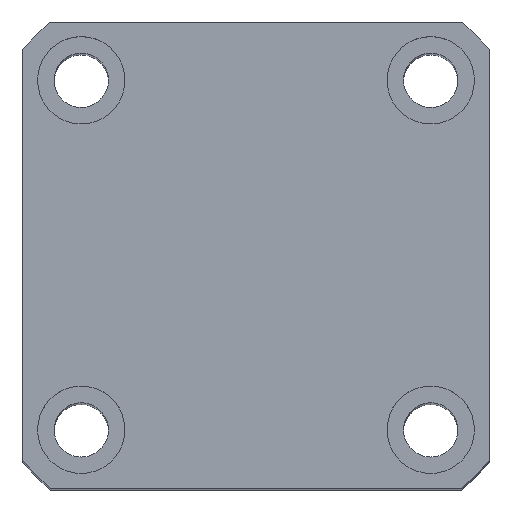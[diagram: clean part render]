
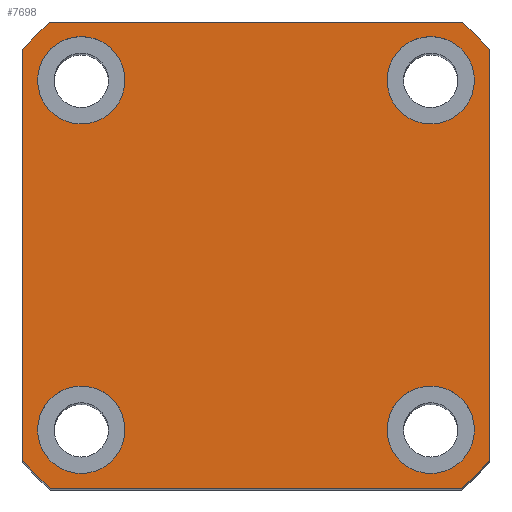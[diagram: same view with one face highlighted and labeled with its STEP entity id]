
A CAD part, top view. The second image highlights one B-rep face of the part: STEP entity #7698.
In plain terms, the highlighted planar face has unit normal (0, 0, 1) as drawn and (1, 0, 0) by its records, which use the part's own axes.
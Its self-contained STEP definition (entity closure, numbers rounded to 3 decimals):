
#68 = AXIS2_PLACEMENT_3D ( 'NONE', #4251, #512, #4882 ) ;
#321 = CIRCLE ( 'NONE', #5984, 4.5 ) ;
#329 = ORIENTED_EDGE ( 'NONE', *, *, #1402, .F. ) ;
#356 = CIRCLE ( 'NONE', #68, 4.5 ) ;
#409 = CARTESIAN_POINT ( 'NONE',  ( 115., -18., -18. ) ) ;
#424 = AXIS2_PLACEMENT_3D ( 'NONE', #5778, #515, #1615 ) ;
#474 = CIRCLE ( 'NONE', #7765, 4.5 ) ;
#512 = DIRECTION ( 'NONE',  ( 1., 0., 0. ) ) ;
#515 = DIRECTION ( 'NONE',  ( 1., 0., 0. ) ) ;
#533 = CARTESIAN_POINT ( 'NONE',  ( 115., 18., 22.5 ) ) ;
#724 = ORIENTED_EDGE ( 'NONE', *, *, #5902, .T. ) ;
#736 = ORIENTED_EDGE ( 'NONE', *, *, #5100, .F. ) ;
#940 = ORIENTED_EDGE ( 'NONE', *, *, #1017, .T. ) ;
#1017 = EDGE_CURVE ( 'NONE', #2473, #1281, #7868, .T. ) ;
#1120 = EDGE_CURVE ( 'NONE', #3943, #2269, #4187, .T. ) ;
#1135 = CARTESIAN_POINT ( 'NONE',  ( 115., -24., 24. ) ) ;
#1152 = CARTESIAN_POINT ( 'NONE',  ( 115., -24., -21.166 ) ) ;
#1250 = ORIENTED_EDGE ( 'NONE', *, *, #1120, .T. ) ;
#1273 = EDGE_CURVE ( 'NONE', #3800, #1586, #3988, .T. ) ;
#1281 = VERTEX_POINT ( 'NONE', #6408 ) ;
#1294 = VERTEX_POINT ( 'NONE', #7442 ) ;
#1402 = EDGE_CURVE ( 'NONE', #4436, #6930, #474, .T. ) ;
#1424 = ORIENTED_EDGE ( 'NONE', *, *, #1898, .T. ) ;
#1476 = ORIENTED_EDGE ( 'NONE', *, *, #5421, .F. ) ;
#1513 = CARTESIAN_POINT ( 'NONE',  ( 115., 24., 24. ) ) ;
#1586 = VERTEX_POINT ( 'NONE', #2344 ) ;
#1615 = DIRECTION ( 'NONE',  ( 0., 0., -1. ) ) ;
#1650 = CIRCLE ( 'NONE', #4276, 4.5 ) ;
#1870 = VERTEX_POINT ( 'NONE', #2248 ) ;
#1885 = CARTESIAN_POINT ( 'NONE',  ( 115., -21.166, -24. ) ) ;
#1898 = EDGE_CURVE ( 'NONE', #1586, #3943, #5600, .T. ) ;
#1910 = CARTESIAN_POINT ( 'NONE',  ( 115., -18., 18. ) ) ;
#1920 = CIRCLE ( 'NONE', #3719, 32. ) ;
#2002 = EDGE_CURVE ( 'NONE', #4073, #7285, #1920, .T. ) ;
#2040 = CIRCLE ( 'NONE', #2443, 4.5 ) ;
#2065 = CARTESIAN_POINT ( 'NONE',  ( 115., 0., 0. ) ) ;
#2248 = CARTESIAN_POINT ( 'NONE',  ( 115., -18., 22.5 ) ) ;
#2269 = VERTEX_POINT ( 'NONE', #1885 ) ;
#2306 = FACE_BOUND ( 'NONE', #6387, .T. ) ;
#2344 = CARTESIAN_POINT ( 'NONE',  ( 115., -24., 21.166 ) ) ;
#2438 = CARTESIAN_POINT ( 'NONE',  ( 115., 24., 24. ) ) ;
#2443 = AXIS2_PLACEMENT_3D ( 'NONE', #1910, #6230, #2509 ) ;
#2473 = VERTEX_POINT ( 'NONE', #3285 ) ;
#2509 = DIRECTION ( 'NONE',  ( 0., 0., -1. ) ) ;
#2564 = LINE ( 'NONE', #7410, #7499 ) ;
#2589 = ORIENTED_EDGE ( 'NONE', *, *, #5230, .F. ) ;
#2705 = EDGE_CURVE ( 'NONE', #1870, #1294, #3079, .T. ) ;
#2754 = DIRECTION ( 'NONE',  ( 0., -1., 0. ) ) ;
#2827 = CARTESIAN_POINT ( 'NONE',  ( 115., 24., -21.166 ) ) ;
#3030 = DIRECTION ( 'NONE',  ( 1., 0., 0. ) ) ;
#3058 = ORIENTED_EDGE ( 'NONE', *, *, #7634, .F. ) ;
#3075 = DIRECTION ( 'NONE',  ( 0., 0., 1. ) ) ;
#3079 = CIRCLE ( 'NONE', #5255, 4.5 ) ;
#3082 = ORIENTED_EDGE ( 'NONE', *, *, #4182, .F. ) ;
#3152 = CARTESIAN_POINT ( 'NONE',  ( 115., 18., -18. ) ) ;
#3167 = ORIENTED_EDGE ( 'NONE', *, *, #2002, .T. ) ;
#3282 = CARTESIAN_POINT ( 'NONE',  ( 115., -18., -18. ) ) ;
#3285 = CARTESIAN_POINT ( 'NONE',  ( 115., 24., 21.166 ) ) ;
#3305 = DIRECTION ( 'NONE',  ( 0., 0., -1. ) ) ;
#3368 = FACE_OUTER_BOUND ( 'NONE', #5569, .T. ) ;
#3425 = EDGE_LOOP ( 'NONE', ( #8018, #3082 ) ) ;
#3480 = DIRECTION ( 'NONE',  ( 0., 0., -1. ) ) ;
#3496 = CARTESIAN_POINT ( 'NONE',  ( 115., -21.166, 24. ) ) ;
#3503 = DIRECTION ( 'NONE',  ( 1., 0., 0. ) ) ;
#3529 = CARTESIAN_POINT ( 'NONE',  ( 115., 18., 18. ) ) ;
#3561 = VECTOR ( 'NONE', #4677, 1000. ) ;
#3562 = FACE_BOUND ( 'NONE', #3425, .T. ) ;
#3719 = AXIS2_PLACEMENT_3D ( 'NONE', #4684, #3030, #4945 ) ;
#3734 = CARTESIAN_POINT ( 'NONE',  ( 115., 18., 13.5 ) ) ;
#3751 = CIRCLE ( 'NONE', #4972, 4.5 ) ;
#3768 = DIRECTION ( 'NONE',  ( 0., 0., -1. ) ) ;
#3800 = VERTEX_POINT ( 'NONE', #3496 ) ;
#3897 = DIRECTION ( 'NONE',  ( 0., 0., -1. ) ) ;
#3943 = VERTEX_POINT ( 'NONE', #1152 ) ;
#3988 = CIRCLE ( 'NONE', #7344, 32. ) ;
#4029 = DIRECTION ( 'NONE',  ( 0., 0., -1. ) ) ;
#4073 = VERTEX_POINT ( 'NONE', #7211 ) ;
#4074 = EDGE_CURVE ( 'NONE', #2269, #4073, #2564, .T. ) ;
#4082 = DIRECTION ( 'NONE',  ( 1., 0., 0. ) ) ;
#4093 = DIRECTION ( 'NONE',  ( 0., 0., -1. ) ) ;
#4116 = CARTESIAN_POINT ( 'NONE',  ( 115., 18., 18. ) ) ;
#4141 = CARTESIAN_POINT ( 'NONE',  ( 115., -18., -22.5 ) ) ;
#4182 = EDGE_CURVE ( 'NONE', #7049, #6262, #321, .T. ) ;
#4187 = CIRCLE ( 'NONE', #5303, 32. ) ;
#4231 = EDGE_CURVE ( 'NONE', #6262, #7049, #5109, .T. ) ;
#4251 = CARTESIAN_POINT ( 'NONE',  ( 115., 18., -18. ) ) ;
#4276 = AXIS2_PLACEMENT_3D ( 'NONE', #3152, #7467, #3768 ) ;
#4436 = VERTEX_POINT ( 'NONE', #7917 ) ;
#4450 = ORIENTED_EDGE ( 'NONE', *, *, #2705, .F. ) ;
#4644 = VERTEX_POINT ( 'NONE', #7989 ) ;
#4653 = LINE ( 'NONE', #2438, #7935 ) ;
#4677 = DIRECTION ( 'NONE',  ( 0., 0., -1. ) ) ;
#4684 = CARTESIAN_POINT ( 'NONE',  ( 115., 0., 0. ) ) ;
#4882 = DIRECTION ( 'NONE',  ( 0., 0., -1. ) ) ;
#4945 = DIRECTION ( 'NONE',  ( 0., 0., -1. ) ) ;
#4972 = AXIS2_PLACEMENT_3D ( 'NONE', #3282, #7607, #3897 ) ;
#5030 = FACE_BOUND ( 'NONE', #6723, .T. ) ;
#5100 = EDGE_CURVE ( 'NONE', #7386, #4644, #356, .T. ) ;
#5109 = CIRCLE ( 'NONE', #7215, 4.5 ) ;
#5163 = PLANE ( 'NONE',  #7869 ) ;
#5230 = EDGE_CURVE ( 'NONE', #4644, #7386, #1650, .T. ) ;
#5255 = AXIS2_PLACEMENT_3D ( 'NONE', #7706, #7721, #7733 ) ;
#5303 = AXIS2_PLACEMENT_3D ( 'NONE', #7299, #7347, #7368 ) ;
#5421 = EDGE_CURVE ( 'NONE', #1294, #1870, #2040, .T. ) ;
#5532 = DIRECTION ( 'NONE',  ( 1., 0., 0. ) ) ;
#5569 = EDGE_LOOP ( 'NONE', ( #6840, #3167, #6082, #940, #724, #8010, #1424, #1250 ) ) ;
#5600 = LINE ( 'NONE', #1135, #3561 ) ;
#5778 = CARTESIAN_POINT ( 'NONE',  ( 115., 0., 0. ) ) ;
#5902 = EDGE_CURVE ( 'NONE', #1281, #3800, #6865, .T. ) ;
#5974 = DIRECTION ( 'NONE',  ( 0., 0., -1. ) ) ;
#5984 = AXIS2_PLACEMENT_3D ( 'NONE', #4116, #4082, #4029 ) ;
#6082 = ORIENTED_EDGE ( 'NONE', *, *, #7030, .T. ) ;
#6230 = DIRECTION ( 'NONE',  ( 1., 0., 0. ) ) ;
#6262 = VERTEX_POINT ( 'NONE', #3734 ) ;
#6278 = CARTESIAN_POINT ( 'NONE',  ( 115., 0., 0. ) ) ;
#6336 = DIRECTION ( 'NONE',  ( 1., 0., 0. ) ) ;
#6387 = EDGE_LOOP ( 'NONE', ( #1476, #4450 ) ) ;
#6408 = CARTESIAN_POINT ( 'NONE',  ( 115., 21.166, 24. ) ) ;
#6723 = EDGE_LOOP ( 'NONE', ( #2589, #736 ) ) ;
#6736 = CARTESIAN_POINT ( 'NONE',  ( 115., 18., -13.5 ) ) ;
#6798 = DIRECTION ( 'NONE',  ( 0., 1., 0. ) ) ;
#6840 = ORIENTED_EDGE ( 'NONE', *, *, #4074, .T. ) ;
#6845 = FACE_BOUND ( 'NONE', #7638, .T. ) ;
#6865 = LINE ( 'NONE', #1513, #7068 ) ;
#6930 = VERTEX_POINT ( 'NONE', #4141 ) ;
#7017 = DIRECTION ( 'NONE',  ( 1., 0., 0. ) ) ;
#7030 = EDGE_CURVE ( 'NONE', #7285, #2473, #4653, .T. ) ;
#7049 = VERTEX_POINT ( 'NONE', #533 ) ;
#7068 = VECTOR ( 'NONE', #2754, 1000. ) ;
#7211 = CARTESIAN_POINT ( 'NONE',  ( 115., 21.166, -24. ) ) ;
#7215 = AXIS2_PLACEMENT_3D ( 'NONE', #3529, #3503, #3480 ) ;
#7285 = VERTEX_POINT ( 'NONE', #2827 ) ;
#7299 = CARTESIAN_POINT ( 'NONE',  ( 115., 0., 0. ) ) ;
#7344 = AXIS2_PLACEMENT_3D ( 'NONE', #6278, #6336, #4093 ) ;
#7347 = DIRECTION ( 'NONE',  ( 1., 0., 0. ) ) ;
#7368 = DIRECTION ( 'NONE',  ( 0., 0., -1. ) ) ;
#7386 = VERTEX_POINT ( 'NONE', #6736 ) ;
#7410 = CARTESIAN_POINT ( 'NONE',  ( 115., 24., -24. ) ) ;
#7442 = CARTESIAN_POINT ( 'NONE',  ( 115., -18., 13.5 ) ) ;
#7467 = DIRECTION ( 'NONE',  ( 1., 0., 0. ) ) ;
#7499 = VECTOR ( 'NONE', #6798, 1000. ) ;
#7607 = DIRECTION ( 'NONE',  ( 1., 0., 0. ) ) ;
#7634 = EDGE_CURVE ( 'NONE', #6930, #4436, #3751, .T. ) ;
#7638 = EDGE_LOOP ( 'NONE', ( #3058, #329 ) ) ;
#7698 = ADVANCED_FACE ( 'NONE', ( #6845, #2306, #5030, #3562, #3368 ), #5163, .T. ) ;
#7706 = CARTESIAN_POINT ( 'NONE',  ( 115., -18., 18. ) ) ;
#7721 = DIRECTION ( 'NONE',  ( 1., 0., 0. ) ) ;
#7733 = DIRECTION ( 'NONE',  ( 0., 0., -1. ) ) ;
#7765 = AXIS2_PLACEMENT_3D ( 'NONE', #409, #5532, #5974 ) ;
#7868 = CIRCLE ( 'NONE', #424, 32. ) ;
#7869 = AXIS2_PLACEMENT_3D ( 'NONE', #2065, #7017, #3305 ) ;
#7917 = CARTESIAN_POINT ( 'NONE',  ( 115., -18., -13.5 ) ) ;
#7935 = VECTOR ( 'NONE', #3075, 1000. ) ;
#7989 = CARTESIAN_POINT ( 'NONE',  ( 115., 18., -22.5 ) ) ;
#8010 = ORIENTED_EDGE ( 'NONE', *, *, #1273, .T. ) ;
#8018 = ORIENTED_EDGE ( 'NONE', *, *, #4231, .F. ) ;
